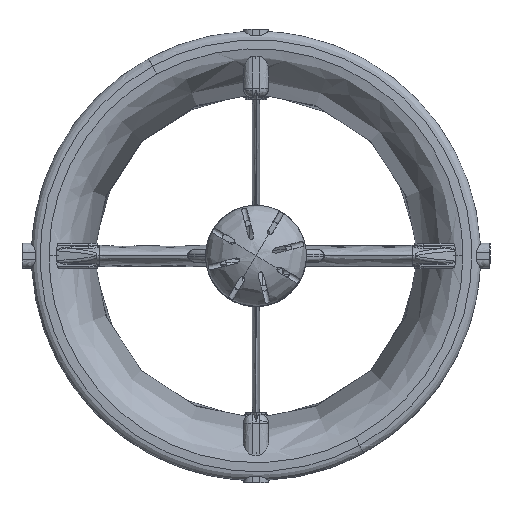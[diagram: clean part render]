
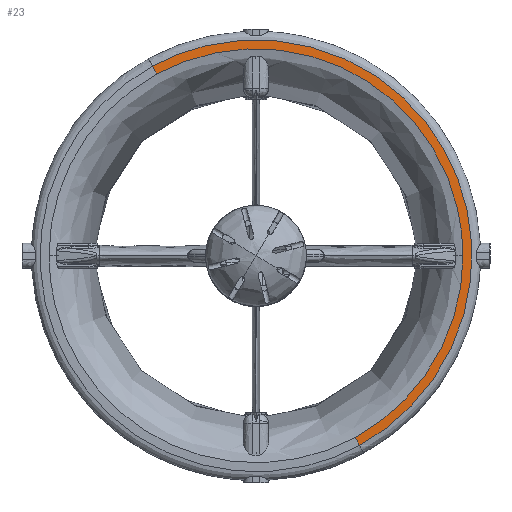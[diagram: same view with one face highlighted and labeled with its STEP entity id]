
A CAD part, top view. The second image highlights one B-rep face of the part: STEP entity #23.
In plain terms, the highlighted free-form (B-spline) face has degree [2, 3] with [5, 4] control points.
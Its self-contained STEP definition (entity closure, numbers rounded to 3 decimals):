
#23=ADVANCED_FACE('',(#1566),#22540,.T.);
#1566=FACE_OUTER_BOUND('',#2971,.T.);
#2971=EDGE_LOOP('',(#4518,#4519,#4520,#4521,#4522));
#4518=ORIENTED_EDGE('',*,*,#12181,.T.);
#4519=ORIENTED_EDGE('',*,*,#12180,.T.);
#4520=ORIENTED_EDGE('',*,*,#12941,.T.);
#4521=ORIENTED_EDGE('',*,*,#12185,.T.);
#4522=ORIENTED_EDGE('',*,*,#13671,.F.);
#12180=EDGE_CURVE('',#19846,#19847,#18442,.T.);
#12181=EDGE_CURVE('',#20304,#19846,#18443,.T.);
#12185=EDGE_CURVE('',#19854,#20776,#18445,.T.);
#12941=EDGE_CURVE('',#19847,#19854,#18668,.T.);
#13671=EDGE_CURVE('',#20304,#20776,#18960,.T.);
#18442=(
BOUNDED_CURVE()
B_SPLINE_CURVE(3,(#44048,#44049,#44050,#44051),.UNSPECIFIED.,.F.,.F.)
B_SPLINE_CURVE_WITH_KNOTS((4,4),(0.,7.074),.UNSPECIFIED.)
CURVE()
GEOMETRIC_REPRESENTATION_ITEM()
RATIONAL_B_SPLINE_CURVE((1.,1.,1.,1.))
REPRESENTATION_ITEM('')
);
#18443=(
BOUNDED_CURVE()
B_SPLINE_CURVE(2,(#44052,#44053,#44054,#44055,#44056),.UNSPECIFIED.,.F.,
 .F.)
B_SPLINE_CURVE_WITH_KNOTS((3,2,3),(753.984,942.48,1130.976),
 .UNSPECIFIED.)
CURVE()
GEOMETRIC_REPRESENTATION_ITEM()
RATIONAL_B_SPLINE_CURVE((1.,0.707,1.,0.707,1.))
REPRESENTATION_ITEM('')
);
#18445=(
BOUNDED_CURVE()
B_SPLINE_CURVE(2,(#44088,#44089,#44090),.UNSPECIFIED.,.F.,.F.)
B_SPLINE_CURVE_WITH_KNOTS((3,3),(0.,123.142),.UNSPECIFIED.)
CURVE()
GEOMETRIC_REPRESENTATION_ITEM()
RATIONAL_B_SPLINE_CURVE((1.,0.86,1.))
REPRESENTATION_ITEM('')
);
#18668=(
BOUNDED_CURVE()
B_SPLINE_CURVE(2,(#48592,#48593,#48594,#48595,#48596),.UNSPECIFIED.,.F.,
 .F.)
B_SPLINE_CURVE_WITH_KNOTS((3,2,3),(484.425,603.496,722.566),
 .UNSPECIFIED.)
CURVE()
GEOMETRIC_REPRESENTATION_ITEM()
RATIONAL_B_SPLINE_CURVE((1.,0.869,1.,0.869,1.))
REPRESENTATION_ITEM('')
);
#18960=(
BOUNDED_CURVE()
B_SPLINE_CURVE(3,(#51810,#51811,#51812,#51813),.UNSPECIFIED.,.F.,.F.)
B_SPLINE_CURVE_WITH_KNOTS((4,4),(0.,7.074),.UNSPECIFIED.)
CURVE()
GEOMETRIC_REPRESENTATION_ITEM()
RATIONAL_B_SPLINE_CURVE((1.,1.,1.,1.))
REPRESENTATION_ITEM('')
);
#19846=VERTEX_POINT('',#43104);
#19847=VERTEX_POINT('',#43105);
#19854=VERTEX_POINT('',#43112);
#20304=VERTEX_POINT('',#43562);
#20776=VERTEX_POINT('',#44034);
#22540=(
BOUNDED_SURFACE()
B_SPLINE_SURFACE(2,3,((#24633,#24634,#24635,#24636),(#24637,#24638,#24639,
#24640),(#24641,#24642,#24643,#24644),(#24645,#24646,#24647,#24648),(#24649,
#24650,#24651,#24652)),.UNSPECIFIED.,.F.,.F.,.F.)
B_SPLINE_SURFACE_WITH_KNOTS((3,2,3),(4,4),(753.984,942.48,
1130.976),(0.,7.074),.UNSPECIFIED.)
GEOMETRIC_REPRESENTATION_ITEM()
RATIONAL_B_SPLINE_SURFACE(((1.,1.,1.,1.),(0.707,0.707,
0.707,0.707),(1.,1.,1.,1.),(0.707,0.707,
0.707,0.707),(1.,1.,1.,1.)))
REPRESENTATION_ITEM('')
SURFACE()
);
#24633=CARTESIAN_POINT('',(57.531,-105.31,-30.306));
#24634=CARTESIAN_POINT('',(56.732,-103.847,-30.24));
#24635=CARTESIAN_POINT('',(55.933,-102.385,-30.173));
#24636=CARTESIAN_POINT('',(55.134,-100.922,-30.106));
#24637=CARTESIAN_POINT('',(162.841,-47.779,-30.306));
#24638=CARTESIAN_POINT('',(160.58,-47.115,-30.24));
#24639=CARTESIAN_POINT('',(158.318,-46.452,-30.173));
#24640=CARTESIAN_POINT('',(156.056,-45.788,-30.106));
#24641=CARTESIAN_POINT('',(105.31,57.531,-30.306));
#24642=CARTESIAN_POINT('',(103.847,56.732,-30.24));
#24643=CARTESIAN_POINT('',(102.385,55.933,-30.173));
#24644=CARTESIAN_POINT('',(100.922,55.134,-30.106));
#24645=CARTESIAN_POINT('',(47.779,162.841,-30.306));
#24646=CARTESIAN_POINT('',(47.115,160.58,-30.24));
#24647=CARTESIAN_POINT('',(46.452,158.318,-30.173));
#24648=CARTESIAN_POINT('',(45.788,156.056,-30.106));
#24649=CARTESIAN_POINT('',(-57.531,105.31,-30.306));
#24650=CARTESIAN_POINT('',(-56.732,103.847,-30.24));
#24651=CARTESIAN_POINT('',(-55.933,102.385,-30.173));
#24652=CARTESIAN_POINT('',(-55.134,100.922,-30.106));
#43104=CARTESIAN_POINT('',(-57.531,105.31,-30.306));
#43105=CARTESIAN_POINT('',(-55.134,100.922,-30.106));
#43112=CARTESIAN_POINT('',(115.,0.,-30.106));
#43562=CARTESIAN_POINT('',(57.531,-105.31,-30.306));
#44034=CARTESIAN_POINT('',(55.134,-100.922,-30.106));
#44048=CARTESIAN_POINT('',(-57.531,105.31,-30.306));
#44049=CARTESIAN_POINT('',(-56.732,103.847,-30.24));
#44050=CARTESIAN_POINT('',(-55.933,102.385,-30.173));
#44051=CARTESIAN_POINT('',(-55.134,100.922,-30.106));
#44052=CARTESIAN_POINT('',(57.531,-105.31,-30.306));
#44053=CARTESIAN_POINT('',(162.841,-47.779,-30.306));
#44054=CARTESIAN_POINT('',(105.31,57.531,-30.306));
#44055=CARTESIAN_POINT('',(47.779,162.841,-30.306));
#44056=CARTESIAN_POINT('',(-57.531,105.31,-30.306));
#44088=CARTESIAN_POINT('',(115.,0.,-30.106));
#44089=CARTESIAN_POINT('',(115.,-68.217,-30.106));
#44090=CARTESIAN_POINT('',(55.134,-100.922,-30.106));
#48592=CARTESIAN_POINT('',(-55.134,100.922,-30.106));
#48593=CARTESIAN_POINT('',(2.342,132.321,-30.106));
#48594=CARTESIAN_POINT('',(58.671,98.908,-30.106));
#48595=CARTESIAN_POINT('',(115.,65.494,-30.106));
#48596=CARTESIAN_POINT('',(115.,0.,-30.106));
#51810=CARTESIAN_POINT('',(57.531,-105.31,-30.306));
#51811=CARTESIAN_POINT('',(56.732,-103.847,-30.24));
#51812=CARTESIAN_POINT('',(55.933,-102.385,-30.173));
#51813=CARTESIAN_POINT('',(55.134,-100.922,-30.106));
